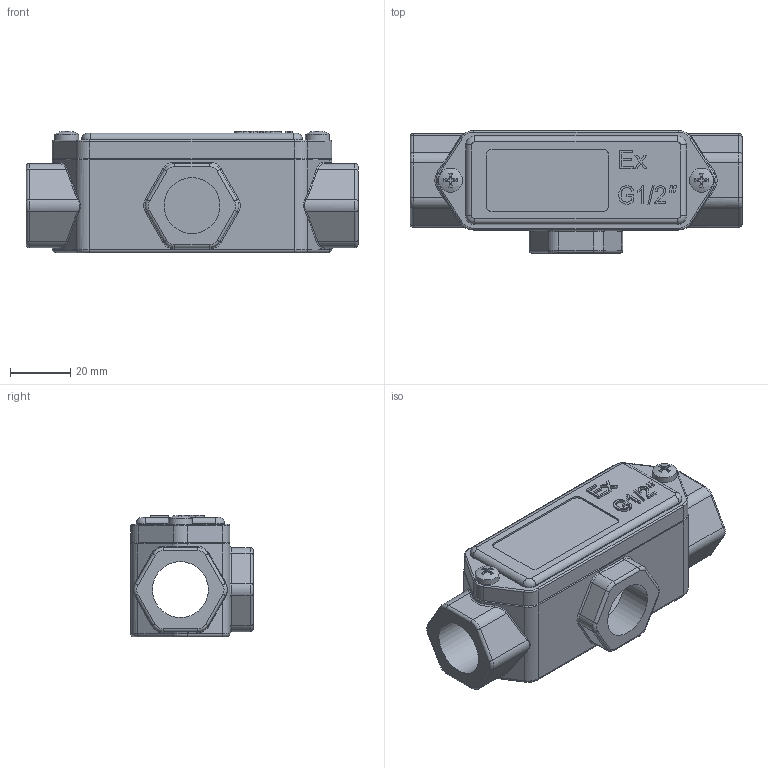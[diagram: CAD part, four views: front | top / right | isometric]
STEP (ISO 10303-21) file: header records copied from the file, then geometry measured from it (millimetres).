
FILE_DESCRIPTION (( 'STEP AP203' ), '1' );
FILE_NAME ('ﾑﾊﾂﾅ-ﾒ1_3D.STEP', '2024-03-06T07:06:10', ( '' ), ( '' ), 'SwSTEP 2.0', 'SolidWorks 2018', '' );
FILE_SCHEMA (( 'CONFIG_CONTROL_DESIGN' ));
Length unit declared in the file: millimetre
Products named in the file (1): ﾑﾊﾂﾅ-ﾒ1_3D
Bounding box: 110.5 x 40.75 x 40.57 mm (x, y, z)
Volume: 53663.6 mm3; surface area: 32915.1 mm2
Topology: 1 solids, 4 shells, 405 faces, 995 edges, 616 vertices
Faces by surface type: plane 174, cylinder 127, torus 56, bspline 42, cone 4, sphere 2
Full cylindrical faces by diameter (mm): 3.242 x2, 3.394 x2, 4 x2, 4.5 x2, 8 x2, 18.631 x3
Entity records: 14909 total; most frequent: CARTESIAN_POINT 5564, ORIENTED_EDGE 1928, DIRECTION 1888, EDGE_CURVE 964, AXIS2_PLACEMENT_3D 678, VERTEX_POINT 606, VECTOR 532, LINE 532
